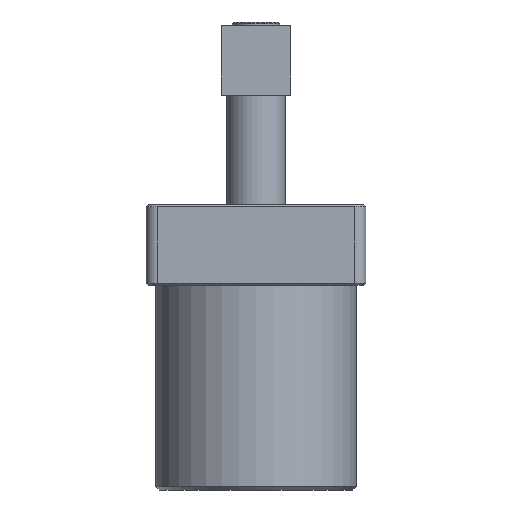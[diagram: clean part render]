
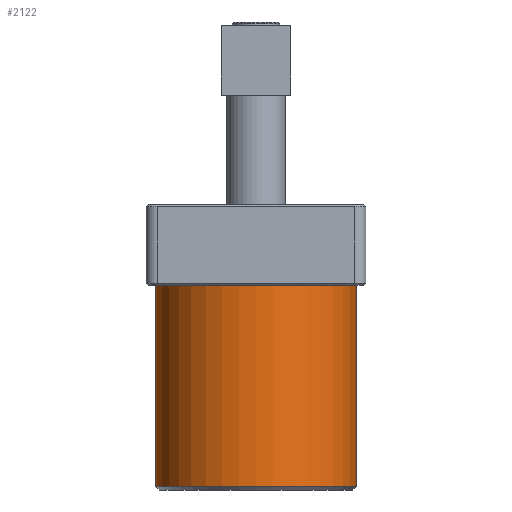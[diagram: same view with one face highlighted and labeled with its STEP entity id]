
A CAD part, left-side view. The second image highlights one B-rep face of the part: STEP entity #2122.
In plain terms, the highlighted cylindrical face has radius 27.5 mm (diameter 55 mm), a full revolution.
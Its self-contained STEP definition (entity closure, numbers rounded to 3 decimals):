
#191=CYLINDRICAL_SURFACE('',#2259,27.5);
#279=ORIENTED_EDGE('',*,*,#606,.T.);
#280=ORIENTED_EDGE('',*,*,#607,.F.);
#606=EDGE_CURVE('',#772,#772,#892,.T.);
#607=EDGE_CURVE('',#773,#773,#893,.T.);
#772=VERTEX_POINT('',#2925);
#773=VERTEX_POINT('',#2928);
#892=CIRCLE('',#2258,27.5);
#893=CIRCLE('',#2260,27.5);
#987=EDGE_LOOP('',(#279));
#988=EDGE_LOOP('',(#280));
#1163=FACE_BOUND('',#987,.T.);
#1164=FACE_BOUND('',#988,.T.);
#2122=ADVANCED_FACE('',(#1163,#1164),#191,.T.);
#2258=AXIS2_PLACEMENT_3D('',#2924,#2471,#2472);
#2259=AXIS2_PLACEMENT_3D('',#2926,#2473,#2474);
#2260=AXIS2_PLACEMENT_3D('',#2927,#2475,#2476);
#2471=DIRECTION('',(0.,0.,1.));
#2472=DIRECTION('',(1.,0.,0.));
#2473=DIRECTION('',(0.,0.,1.));
#2474=DIRECTION('',(0.,-1.,0.));
#2475=DIRECTION('',(0.,0.,1.));
#2476=DIRECTION('',(0.,-1.,0.));
#2924=CARTESIAN_POINT('',(16.5,31.5,-63.));
#2925=CARTESIAN_POINT('',(44.,31.5,-63.));
#2926=CARTESIAN_POINT('',(16.5,31.5,-64.));
#2927=CARTESIAN_POINT('',(16.5,31.5,-8.));
#2928=CARTESIAN_POINT('',(16.5,4.,-8.));
